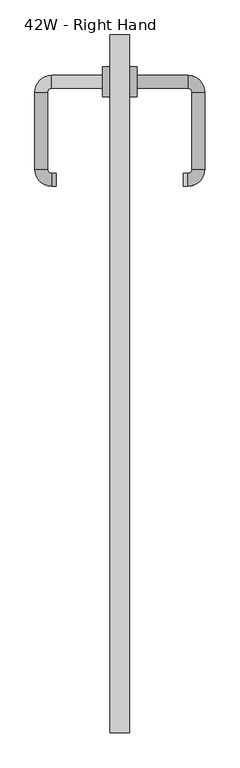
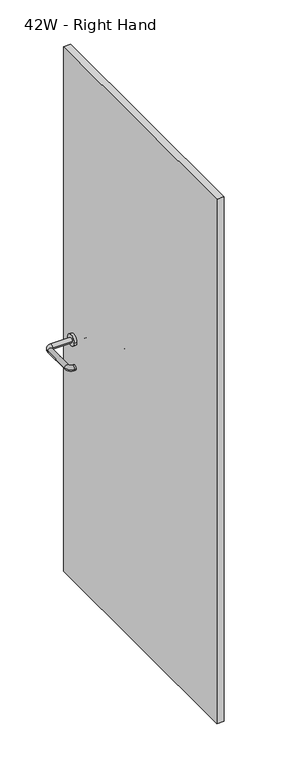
"""IFC4 building model written with IfcOpenShell, lengths in millimetres: furniture geometry, Steelcase - Montage - Door - Hinged Door : 42W - Right Hand."""

from ifc_helpers import new_model, si_unit, point, frame, frame_2d, origin, origin_with_axes, place, context, project, spatial, polyline, circle_curve, ellipse_curve, trimmed, segment, composite_curve, outline, extrude, source, transform, mapped, element, save
from ifc_brep_helpers import plane_surface, cylinder_surface, revolved_surface, advanced_brep


def furniture_42w_right_hand_b924acb2(model_context):
    return source(origin(), model_context, "Body", "SolidModel", [
        extrude(outline(polyline([(1025.5249996, 1079.5000015), (1054.0999996, 1079.5000015), (1054.0999996, 38.1000015), (1025.5249996, 38.1000015), (1025.5249996, 1079.5000015)])), origin_with_axes(), (0.0, 0.0, 1.0), 2171.7),
        advanced_brep(
        [(1014.4124996, 1019.1750013, 1003.3), (1014.4124996, 1000.1250013, 1003.3), (938.2124938, 1019.1750013, 1003.3), (938.2124938, 1000.1250013, 1003.3), (931.8624996, 993.775007, 1003.3), (912.8124996, 993.775007, 1003.3), (912.8124996, 879.4749954, 1003.3), (931.8624996, 879.4749954, 1003.3), (938.2124938, 873.1250012, 1003.3), (938.2124938, 854.0750012, 1003.3), (944.5624996, 854.0750012, 1003.3), (944.5624996, 873.1250012, 1003.3)],
        [
            (0, 1, circle_curve(frame((1014.4124996, 1009.6500013, 1003.3), z_axis=(1.0, 0.0, 0.0), x_axis=(0.0, -1.0, 0.0)), 9.525)),
            (1, 0, circle_curve(frame((1014.4124996, 1009.6500013, 1003.3), z_axis=(1.0, 0.0, 0.0), x_axis=(0.0, -1.0, 0.0)), 9.525)),
            (0, 2),
            (2, 3, circle_curve(frame((938.2124938, 1009.6500013, 1003.3), z_axis=(1.0, 0.0, 0.0), x_axis=(0.0, -1.0, 0.0)), 9.525)),
            (3, 1),
            (3, 2, circle_curve(frame((938.2124938, 1009.6500013, 1003.3), z_axis=(1.0, 0.0, 0.0), x_axis=(0.0, -1.0, 0.0)), 9.525)),
            (4, 3, circle_curve(frame((938.2124938, 993.775007, 1003.3), z_axis=(0.0, 0.0, -1.0), x_axis=(0.0, 1.0, 0.0)), 6.3499943)),
            (2, 5, circle_curve(frame((938.2124938, 993.775007, 1003.3), z_axis=(0.0, 0.0, 1.0), x_axis=(0.0, 1.0, 0.0)), 25.3999943)),
            (5, 4, circle_curve(frame((922.3374996, 993.775007, 1003.3), z_axis=(0.0, 1.0, 0.0), x_axis=(1.0, 0.0, 0.0)), 9.525)),
            (4, 5, circle_curve(frame((922.3374996, 993.775007, 1003.3), z_axis=(0.0, 1.0, 0.0), x_axis=(1.0, 0.0, 0.0)), 9.525)),
            (5, 6),
            (6, 7, circle_curve(frame((922.3374996, 879.4749954, 1003.3), z_axis=(0.0, 1.0, 0.0), x_axis=(1.0, 0.0, 0.0)), 9.525)),
            (7, 4),
            (7, 6, circle_curve(frame((922.3374996, 879.4749954, 1003.3), z_axis=(0.0, 1.0, 0.0), x_axis=(1.0, 0.0, 0.0)), 9.525)),
            (8, 7, circle_curve(frame((938.2124938, 879.4749954, 1003.3), z_axis=(0.0, 0.0, -1.0), x_axis=(-1.0, 0.0, 0.0)), 6.3499943)),
            (6, 9, circle_curve(frame((938.2124938, 879.4749954, 1003.3), z_axis=(0.0, 0.0, 1.0), x_axis=(-1.0, 0.0, 0.0)), 25.3999943)),
            (9, 8, circle_curve(frame((938.2124938, 863.6000012, 1003.3), z_axis=(-1.0, 0.0, 0.0), x_axis=(0.0, 1.0, 0.0)), 9.525)),
            (8, 9, circle_curve(frame((938.2124938, 863.6000012, 1003.3), z_axis=(-1.0, 0.0, 0.0), x_axis=(0.0, 1.0, 0.0)), 9.525)),
            (10, 11, circle_curve(frame((944.5624996, 863.6000012, 1003.3), z_axis=(1.0, 0.0, 0.0), x_axis=(0.0, 1.0, 0.0)), 9.525)),
            (11, 10, circle_curve(frame((944.5624996, 863.6000012, 1003.3), z_axis=(1.0, 0.0, 0.0), x_axis=(0.0, 1.0, 0.0)), 9.525)),
            (9, 10),
            (11, 8),
        ],
        [
            plane_surface(frame((1014.4124996, 1009.6500013, 1003.3), z_axis=(1.0, 0.0, 0.0), x_axis=(0.0, 0.0, 1.0))),
            cylinder_surface(frame((1014.4124996, 1009.6500013, 1003.3), z_axis=(1.0, 0.0, 0.0), x_axis=(0.0, -1.0, 0.0)), 9.525),
            revolved_surface(trimmed(ellipse_curve(frame((938.2124938, 1009.6500013, 1003.3), z_axis=(1.0, 0.0, 0.0), x_axis=(0.0, -1.0, 0.0)), 9.525, 9.525), [point((938.2124938, 1019.1750013, 1003.3))], [point((938.2124938, 1000.1250013, 1003.3))], True, "CARTESIAN"), (938.2124938, 993.775007, 1003.3), (0.0, 0.0, 1.0)),
            revolved_surface(trimmed(ellipse_curve(frame((938.2124938, 1009.6500013, 1003.3), z_axis=(1.0, 0.0, 0.0), x_axis=(0.0, -1.0, 0.0)), 9.525, 9.525), [point((938.2124938, 1000.1250013, 1003.3))], [point((938.2124938, 1019.1750013, 1003.3))], True, "CARTESIAN"), (938.2124938, 993.775007, 1003.3), (0.0, 0.0, 1.0)),
            cylinder_surface(frame((922.3374996, 993.775007, 1003.3), z_axis=(0.0, 1.0, 0.0), x_axis=(1.0, 0.0, 0.0)), 9.525),
            revolved_surface(trimmed(ellipse_curve(frame((922.3374996, 879.4749954, 1003.3), z_axis=(0.0, 1.0, 0.0), x_axis=(1.0, 0.0, 0.0)), 9.525, 9.525), [point((912.8124996, 879.4749954, 1003.3))], [point((931.8624996, 879.4749954, 1003.3))], True, "CARTESIAN"), (938.2124938, 879.4749954, 1003.3), (0.0, 0.0, 1.0)),
            revolved_surface(trimmed(ellipse_curve(frame((922.3374996, 879.4749954, 1003.3), z_axis=(0.0, 1.0, 0.0), x_axis=(1.0, 0.0, 0.0)), 9.525, 9.525), [point((931.8624996, 879.4749954, 1003.3))], [point((912.8124996, 879.4749954, 1003.3))], True, "CARTESIAN"), (938.2124938, 879.4749954, 1003.3), (0.0, 0.0, 1.0)),
            plane_surface(frame((944.5624996, 863.6000012, 1003.3), z_axis=(1.0, 0.0, 0.0), x_axis=(0.0, 0.0, 1.0))),
            cylinder_surface(frame((938.2124938, 863.6000012, 1003.3), z_axis=(-1.0, 0.0, 0.0), x_axis=(0.0, 1.0, 0.0)), 9.525),
        ],
        [
            (0, [[1, 2]]),
            (1, [[-1, 3, 4, 5]]),
            (1, [[-2, -5, 6, -3]]),
            (2, [[7, -4, 8, 9]]),
            (3, [[-8, -6, -7, 10]]),
            (4, [[-9, 11, 12, 13]]),
            (4, [[-10, -13, 14, -11]]),
            (5, [[15, -12, 16, 17]]),
            (6, [[-16, -14, -15, 18]]),
            (7, [[19, 20]]),
            (8, [[-17, 21, -20, 22]]),
            (8, [[-18, -22, -19, -21]]),
        ],
    ),
        advanced_brep(
        [(1065.2124996, 1000.1250017, 1003.3), (1065.2124996, 1019.1750017, 1003.3), (1141.4125054, 1000.1250017, 1003.3), (1141.4125054, 1019.1750017, 1003.3), (1166.8125001, 993.775007, 1003.3), (1147.7625001, 993.775007, 1003.3), (1147.7625001, 879.4749954, 1003.3), (1166.8125001, 879.4749954, 1003.3), (1141.4125054, 854.0750007, 1003.3), (1141.4125054, 873.1250007, 1003.3), (1135.0624996, 873.1250007, 1003.3), (1135.0624996, 854.0750007, 1003.3)],
        [
            (0, 1, circle_curve(frame((1065.2124996, 1009.6500017, 1003.3), z_axis=(-1.0, 0.0, 0.0), x_axis=(0.0, 1.0, 0.0)), 9.525)),
            (1, 0, circle_curve(frame((1065.2124996, 1009.6500017, 1003.3), z_axis=(-1.0, 0.0, 0.0), x_axis=(0.0, 1.0, 0.0)), 9.525)),
            (0, 2),
            (2, 3, circle_curve(frame((1141.4125054, 1009.6500017, 1003.3), z_axis=(-1.0, 0.0, 0.0), x_axis=(0.0, 1.0, 0.0)), 9.525)),
            (3, 1),
            (3, 2, circle_curve(frame((1141.4125054, 1009.6500017, 1003.3), z_axis=(-1.0, 0.0, 0.0), x_axis=(0.0, 1.0, 0.0)), 9.525)),
            (4, 3, circle_curve(frame((1141.4125054, 993.775007, 1003.3), z_axis=(0.0, 0.0, 1.0), x_axis=(0.0, 1.0, 0.0)), 25.3999947)),
            (2, 5, circle_curve(frame((1141.4125054, 993.775007, 1003.3), z_axis=(0.0, 0.0, -1.0), x_axis=(0.0, 1.0, 0.0)), 6.3499947)),
            (5, 4, circle_curve(frame((1157.2875001, 993.775007, 1003.3), z_axis=(0.0, 1.0, 0.0), x_axis=(1.0, 0.0, 0.0)), 9.525)),
            (4, 5, circle_curve(frame((1157.2875001, 993.775007, 1003.3), z_axis=(0.0, 1.0, 0.0), x_axis=(1.0, 0.0, 0.0)), 9.525)),
            (5, 6),
            (6, 7, circle_curve(frame((1157.2875001, 879.4749954, 1003.3), z_axis=(0.0, 1.0, 0.0), x_axis=(1.0, 0.0, 0.0)), 9.525)),
            (7, 4),
            (7, 6, circle_curve(frame((1157.2875001, 879.4749954, 1003.3), z_axis=(0.0, 1.0, 0.0), x_axis=(1.0, 0.0, 0.0)), 9.525)),
            (8, 7, circle_curve(frame((1141.4125054, 879.4749954, 1003.3), z_axis=(0.0, 0.0, 1.0), x_axis=(1.0, 0.0, 0.0)), 25.3999947)),
            (6, 9, circle_curve(frame((1141.4125054, 879.4749954, 1003.3), z_axis=(0.0, 0.0, -1.0), x_axis=(1.0, 0.0, 0.0)), 6.3499947)),
            (9, 8, circle_curve(frame((1141.4125054, 863.6000007, 1003.3), z_axis=(1.0, 0.0, 0.0), x_axis=(0.0, -1.0, 0.0)), 9.525)),
            (8, 9, circle_curve(frame((1141.4125054, 863.6000007, 1003.3), z_axis=(1.0, 0.0, 0.0), x_axis=(0.0, -1.0, 0.0)), 9.525)),
            (10, 11, circle_curve(frame((1135.0624996, 863.6000007, 1003.3), z_axis=(-1.0, 0.0, 0.0), x_axis=(0.0, -1.0, 0.0)), 9.525)),
            (11, 10, circle_curve(frame((1135.0624996, 863.6000007, 1003.3), z_axis=(-1.0, 0.0, 0.0), x_axis=(0.0, -1.0, 0.0)), 9.525)),
            (9, 10),
            (11, 8),
        ],
        [
            plane_surface(frame((1065.2124996, 1009.6500017, 1003.3), z_axis=(-1.0, 0.0, 0.0), x_axis=(0.0, 0.0, 1.0))),
            cylinder_surface(frame((1065.2124996, 1009.6500017, 1003.3), z_axis=(-1.0, 0.0, 0.0), x_axis=(0.0, 1.0, 0.0)), 9.525),
            revolved_surface(trimmed(ellipse_curve(frame((1141.4125054, 1009.6500017, 1003.3), z_axis=(-1.0, 0.0, 0.0), x_axis=(0.0, 1.0, 0.0)), 9.525, 9.525), [point((1141.4125054, 1000.1250017, 1003.3))], [point((1141.4125054, 1019.1750017, 1003.3))], True, "CARTESIAN"), (1141.4125054, 993.775007, 1003.3), (0.0, 0.0, -1.0)),
            revolved_surface(trimmed(ellipse_curve(frame((1141.4125054, 1009.6500017, 1003.3), z_axis=(-1.0, 0.0, 0.0), x_axis=(0.0, 1.0, 0.0)), 9.525, 9.525), [point((1141.4125054, 1019.1750017, 1003.3))], [point((1141.4125054, 1000.1250017, 1003.3))], True, "CARTESIAN"), (1141.4125054, 993.775007, 1003.3), (0.0, 0.0, -1.0)),
            cylinder_surface(frame((1157.2875001, 993.775007, 1003.3), z_axis=(0.0, 1.0, 0.0), x_axis=(1.0, 0.0, 0.0)), 9.525),
            revolved_surface(trimmed(ellipse_curve(frame((1157.2875001, 879.4749954, 1003.3), z_axis=(0.0, 1.0, 0.0), x_axis=(1.0, 0.0, 0.0)), 9.525, 9.525), [point((1147.7625001, 879.4749954, 1003.3))], [point((1166.8125001, 879.4749954, 1003.3))], True, "CARTESIAN"), (1141.4125054, 879.4749954, 1003.3), (0.0, 0.0, -1.0)),
            revolved_surface(trimmed(ellipse_curve(frame((1157.2875001, 879.4749954, 1003.3), z_axis=(0.0, 1.0, 0.0), x_axis=(1.0, 0.0, 0.0)), 9.525, 9.525), [point((1166.8125001, 879.4749954, 1003.3))], [point((1147.7625001, 879.4749954, 1003.3))], True, "CARTESIAN"), (1141.4125054, 879.4749954, 1003.3), (0.0, 0.0, -1.0)),
            plane_surface(frame((1135.0624996, 863.6000007, 1003.3), z_axis=(-1.0, 0.0, 0.0), x_axis=(0.0, 0.0, 1.0))),
            cylinder_surface(frame((1141.4125054, 863.6000007, 1003.3), z_axis=(1.0, 0.0, 0.0), x_axis=(0.0, -1.0, 0.0)), 9.525),
        ],
        [
            (0, [[1, 2]]),
            (1, [[-1, 3, 4, 5]]),
            (1, [[-2, -5, 6, -3]]),
            (2, [[7, -4, 8, 9]]),
            (3, [[-8, -6, -7, 10]]),
            (4, [[-9, 11, 12, 13]]),
            (4, [[-10, -13, 14, -11]]),
            (5, [[15, -12, 16, 17]]),
            (6, [[-16, -14, -15, 18]]),
            (7, [[19, 20]]),
            (8, [[-17, 21, -20, 22]]),
            (8, [[-18, -22, -19, -21]]),
        ],
    ),
        extrude(outline(composite_curve([segment(trimmed(circle_curve(frame_2d((1009.6500015, 1003.3)), 22.2250002), [point((987.4250012, 1003.3))], [point((1031.8750017, 1003.3))], False, "CARTESIAN"), True, "CONTINUOUS"), segment(trimmed(circle_curve(frame_2d((1009.6500015, 1003.3)), 22.2250002), [point((1031.8750017, 1003.3))], [point((987.4250012, 1003.3))], False, "CARTESIAN"), True, "CONTINUOUS")], self_intersect=False)), frame((1054.0999996, 0.0, 0.0), z_axis=(1.0, 0.0, 0.0), x_axis=(0.0, 1.0, 0.0)), (0.0, 0.0, 1.0), 11.176),
        extrude(outline(composite_curve([segment(trimmed(circle_curve(frame_2d((1009.6500015, 1003.3)), 22.2250002), [point((987.4250012, 1003.3))], [point((1031.8750017, 1003.3))], False, "CARTESIAN"), True, "CONTINUOUS"), segment(trimmed(circle_curve(frame_2d((1009.6500015, 1003.3)), 22.2250002), [point((1031.8750017, 1003.3))], [point((987.4250012, 1003.3))], False, "CARTESIAN"), True, "CONTINUOUS")], self_intersect=False)), frame((1014.3489996, 0.0, 0.0), z_axis=(1.0, 0.0, 0.0), x_axis=(0.0, 1.0, 0.0)), (0.0, 0.0, 1.0), 11.176),
    ])


if __name__ == "__main__":
    model = new_model("IFC4")
    model_context = context("Model", 3, world=origin())
    ifc_project = project(units=[si_unit("LENGTHUNIT", "METRE", prefix="MILLI")], contexts=[model_context])
    site = spatial("IfcSite", under=ifc_project)
    building = spatial("IfcBuilding", under=site)
    placement = place(None, origin())
    furniture_42w_right_hand_shape = furniture_42w_right_hand_b924acb2(model_context)
    element("IfcFurniture", 1, ObjectType="Steelcase - Montage - Door - Hinged Door : 42W - Right Hand", at=placement, inside=building, context=model_context, shape_type="MappedRepresentation", body=[
        mapped(furniture_42w_right_hand_shape, transform((0.0, 0.0, 0.0), x_axis=(1.0, 0.0, 0.0), y_axis=(0.0, 1.0, 0.0), z_axis=(0.0, 0.0, 1.0))),
    ])
    save(model, "model.ifc")
